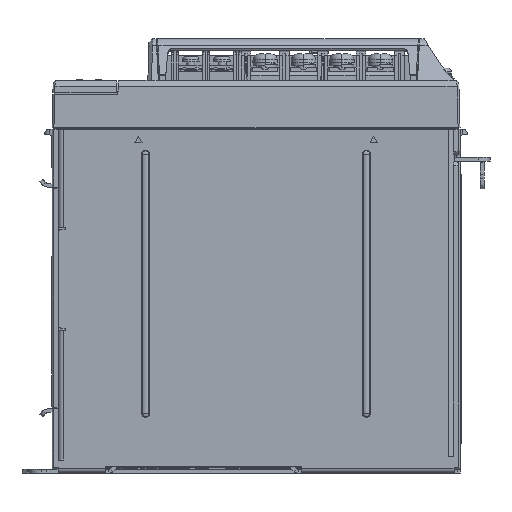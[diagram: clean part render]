
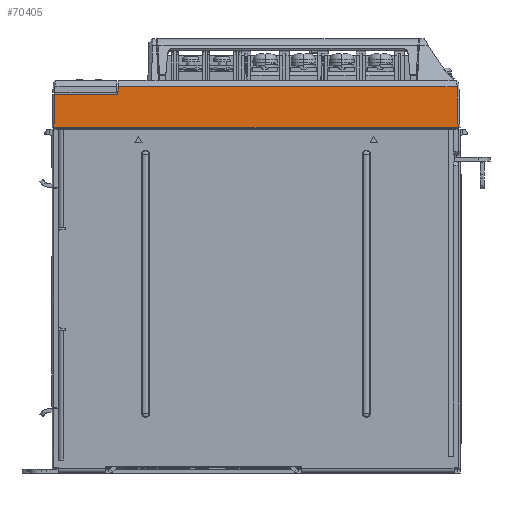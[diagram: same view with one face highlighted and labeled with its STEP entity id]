
A CAD part, left-side view. The second image highlights one B-rep face of the part: STEP entity #70405.
In plain terms, the highlighted planar face has unit normal (-1, 0, 0.026).
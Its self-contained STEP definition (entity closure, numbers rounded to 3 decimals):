
#7511=DIRECTION('',(0.,1.,0.));
#7512=VECTOR('',#7511,141.215);
#7513=CARTESIAN_POINT('',(-33.953,-83.762,
70.104));
#7514=LINE('',#7513,#7512);
#8610=DIRECTION('',(0.,-1.,0.));
#8611=VECTOR('',#8610,26.303);
#8612=CARTESIAN_POINT('',(-34.036,83.836,67.));
#8613=LINE('',#8612,#8611);
#8614=DIRECTION('',(0.026,-0.026,0.999));
#8615=VECTOR('',#8614,3.103);
#8616=CARTESIAN_POINT('',(-34.036,57.534,67.));
#8617=LINE('',#8616,#8615);
#8618=CARTESIAN_POINT('',(-33.953,-83.762,
70.104));
#8619=CARTESIAN_POINT('',(-33.998,-83.807,
68.385));
#8620=CARTESIAN_POINT('',(-34.093,-83.89,
64.832));
#8621=CARTESIAN_POINT('',(-34.242,-84.043,
59.135));
#8622=CARTESIAN_POINT('',(-34.346,-84.147,
55.146));
#8623=CARTESIAN_POINT('',(-34.4,-84.2,53.1));
#8625=DIRECTION('',(0.,1.,0.));
#8626=VECTOR('',#8625,168.401);
#8627=CARTESIAN_POINT('',(-34.4,-84.2,53.1));
#8628=LINE('',#8627,#8626);
#8629=DIRECTION('',(0.026,-0.026,0.999));
#8630=VECTOR('',#8629,13.91);
#8631=CARTESIAN_POINT('',(-34.4,84.2,53.1));
#8632=LINE('',#8631,#8630);
#46989=CARTESIAN_POINT('',(-34.4,84.2,53.1));
#46990=VERTEX_POINT('',#46989);
#46991=CARTESIAN_POINT('',(-34.4,-84.2,53.1));
#46992=VERTEX_POINT('',#46991);
#47185=CARTESIAN_POINT('',(-33.953,-83.762,
70.104));
#47186=CARTESIAN_POINT('',(-33.955,57.452,
70.101));
#47187=VERTEX_POINT('',#47185);
#47188=VERTEX_POINT('',#47186);
#47189=CARTESIAN_POINT('',(-34.036,57.534,67.));
#47190=VERTEX_POINT('',#47189);
#47199=CARTESIAN_POINT('',(-34.036,83.836,67.));
#47200=VERTEX_POINT('',#47199);
#70390=CARTESIAN_POINT('',(-34.4,85.,53.1));
#70391=DIRECTION('',(-1.,0.,0.026));
#70392=DIRECTION('',(0.,-1.,0.));
#70393=AXIS2_PLACEMENT_3D('',#70390,#70391,#70392);
#70394=PLANE('',#70393);
#70395=ORIENTED_EDGE('',*,*,#69061,.T.);
#70396=ORIENTED_EDGE('',*,*,#68962,.T.);
#70397=ORIENTED_EDGE('',*,*,#68935,.F.);
#70399=ORIENTED_EDGE('',*,*,#70398,.T.);
#70400=ORIENTED_EDGE('',*,*,#68797,.T.);
#70402=ORIENTED_EDGE('',*,*,#70401,.T.);
#70403=EDGE_LOOP('',(#70395,#70396,#70397,#70399,#70400,#70402));
#70404=FACE_OUTER_BOUND('',#70403,.F.);
#8624=B_SPLINE_CURVE_WITH_KNOTS('',3,(#8618,#8619,#8620,#8621,#8622,#8623),
.UNSPECIFIED.,.F.,.F.,(4,1,1,4),(0.,0.333,0.667,1.),
.UNSPECIFIED.);
#68797=EDGE_CURVE('',#46992,#46990,#8628,.T.);
#68935=EDGE_CURVE('',#47187,#47188,#7514,.T.);
#68962=EDGE_CURVE('',#47190,#47188,#8617,.T.);
#69061=EDGE_CURVE('',#47200,#47190,#8613,.T.);
#70398=EDGE_CURVE('',#47187,#46992,#8624,.T.);
#70401=EDGE_CURVE('',#46990,#47200,#8632,.T.);
#70405=ADVANCED_FACE('',(#70404),#70394,.T.);
